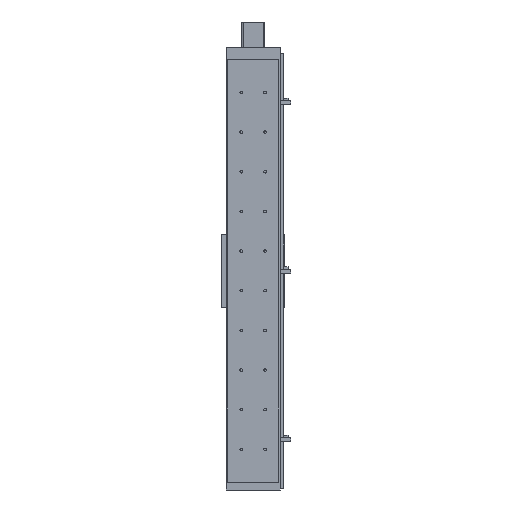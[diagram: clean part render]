
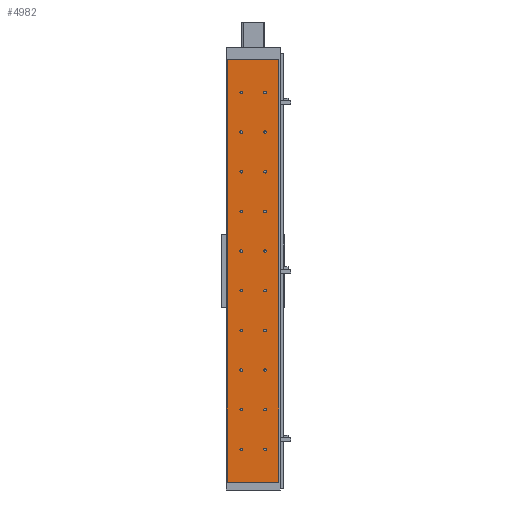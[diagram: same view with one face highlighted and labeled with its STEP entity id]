
A CAD part, front view. The second image highlights one B-rep face of the part: STEP entity #4982.
In plain terms, the highlighted planar face has unit normal (0, -1, 0).
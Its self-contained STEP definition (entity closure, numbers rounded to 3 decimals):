
#2214=CARTESIAN_POINT('',(26.75,0.0,82.5));
#2215=VERTEX_POINT('',#2214);
#2216=CARTESIAN_POINT('',(30.,0.0,82.5));
#2217=DIRECTION('',(0.0,1.0,0.0));
#2218=DIRECTION('',(1.0,0.0,0.0));
#2219=AXIS2_PLACEMENT_3D('',#2216,#2217,#2218);
#2220=CIRCLE('',#2219,3.25);
#2221=EDGE_CURVE('',#2215,#2215,#2220,.T.);
#2255=CARTESIAN_POINT('',(-33.25,0.0,82.5));
#2256=VERTEX_POINT('',#2255);
#2257=CARTESIAN_POINT('',(-30.,0.0,82.5));
#2258=DIRECTION('',(0.0,1.0,0.0));
#2259=DIRECTION('',(1.0,0.0,0.0));
#2260=AXIS2_PLACEMENT_3D('',#2257,#2258,#2259);
#2261=CIRCLE('',#2260,3.25);
#2262=EDGE_CURVE('',#2256,#2256,#2261,.T.);
#2434=CARTESIAN_POINT('',(26.75,0.0,182.5));
#2435=VERTEX_POINT('',#2434);
#2436=CARTESIAN_POINT('',(30.,0.0,182.5));
#2437=DIRECTION('',(0.0,1.0,0.0));
#2438=DIRECTION('',(1.0,0.0,0.0));
#2439=AXIS2_PLACEMENT_3D('',#2436,#2437,#2438);
#2440=CIRCLE('',#2439,3.25);
#2441=EDGE_CURVE('',#2435,#2435,#2440,.T.);
#2475=CARTESIAN_POINT('',(-33.25,0.0,182.5));
#2476=VERTEX_POINT('',#2475);
#2477=CARTESIAN_POINT('',(-30.,0.0,182.5));
#2478=DIRECTION('',(0.0,1.0,0.0));
#2479=DIRECTION('',(1.0,0.0,0.0));
#2480=AXIS2_PLACEMENT_3D('',#2477,#2478,#2479);
#2481=CIRCLE('',#2480,3.25);
#2482=EDGE_CURVE('',#2476,#2476,#2481,.T.);
#2654=CARTESIAN_POINT('',(26.75,0.0,282.5));
#2655=VERTEX_POINT('',#2654);
#2656=CARTESIAN_POINT('',(30.,0.0,282.5));
#2657=DIRECTION('',(0.0,1.0,0.0));
#2658=DIRECTION('',(1.0,0.0,0.0));
#2659=AXIS2_PLACEMENT_3D('',#2656,#2657,#2658);
#2660=CIRCLE('',#2659,3.25);
#2661=EDGE_CURVE('',#2655,#2655,#2660,.T.);
#2695=CARTESIAN_POINT('',(-33.25,0.0,282.5));
#2696=VERTEX_POINT('',#2695);
#2697=CARTESIAN_POINT('',(-30.,0.0,282.5));
#2698=DIRECTION('',(0.0,1.0,0.0));
#2699=DIRECTION('',(1.0,0.0,0.0));
#2700=AXIS2_PLACEMENT_3D('',#2697,#2698,#2699);
#2701=CIRCLE('',#2700,3.25);
#2702=EDGE_CURVE('',#2696,#2696,#2701,.T.);
#2874=CARTESIAN_POINT('',(26.75,0.0,382.5));
#2875=VERTEX_POINT('',#2874);
#2876=CARTESIAN_POINT('',(30.,0.0,382.5));
#2877=DIRECTION('',(0.0,1.0,0.0));
#2878=DIRECTION('',(1.0,0.0,0.0));
#2879=AXIS2_PLACEMENT_3D('',#2876,#2877,#2878);
#2880=CIRCLE('',#2879,3.25);
#2881=EDGE_CURVE('',#2875,#2875,#2880,.T.);
#2915=CARTESIAN_POINT('',(-33.25,0.0,382.5));
#2916=VERTEX_POINT('',#2915);
#2917=CARTESIAN_POINT('',(-30.,0.0,382.5));
#2918=DIRECTION('',(0.0,1.0,0.0));
#2919=DIRECTION('',(1.0,0.0,0.0));
#2920=AXIS2_PLACEMENT_3D('',#2917,#2918,#2919);
#2921=CIRCLE('',#2920,3.25);
#2922=EDGE_CURVE('',#2916,#2916,#2921,.T.);
#3025=CARTESIAN_POINT('',(-33.25,0.0,682.5));
#3026=VERTEX_POINT('',#3025);
#3027=CARTESIAN_POINT('',(-30.,0.0,682.5));
#3028=DIRECTION('',(0.0,1.0,0.0));
#3029=DIRECTION('',(1.0,0.0,0.0));
#3030=AXIS2_PLACEMENT_3D('',#3027,#3028,#3029);
#3031=CIRCLE('',#3030,3.25);
#3032=EDGE_CURVE('',#3026,#3026,#3031,.T.);
#3204=CARTESIAN_POINT('',(26.75,0.0,682.5));
#3205=VERTEX_POINT('',#3204);
#3206=CARTESIAN_POINT('',(30.,0.0,682.5));
#3207=DIRECTION('',(0.0,1.0,0.0));
#3208=DIRECTION('',(1.0,0.0,0.0));
#3209=AXIS2_PLACEMENT_3D('',#3206,#3207,#3208);
#3210=CIRCLE('',#3209,3.25);
#3211=EDGE_CURVE('',#3205,#3205,#3210,.T.);
#3245=CARTESIAN_POINT('',(-33.25,0.0,782.5));
#3246=VERTEX_POINT('',#3245);
#3247=CARTESIAN_POINT('',(-30.,0.0,782.5));
#3248=DIRECTION('',(0.0,1.0,0.0));
#3249=DIRECTION('',(1.0,0.0,0.0));
#3250=AXIS2_PLACEMENT_3D('',#3247,#3248,#3249);
#3251=CIRCLE('',#3250,3.25);
#3252=EDGE_CURVE('',#3246,#3246,#3251,.T.);
#3424=CARTESIAN_POINT('',(26.75,0.0,782.5));
#3425=VERTEX_POINT('',#3424);
#3426=CARTESIAN_POINT('',(30.,0.0,782.5));
#3427=DIRECTION('',(0.0,1.0,0.0));
#3428=DIRECTION('',(1.0,0.0,0.0));
#3429=AXIS2_PLACEMENT_3D('',#3426,#3427,#3428);
#3430=CIRCLE('',#3429,3.25);
#3431=EDGE_CURVE('',#3425,#3425,#3430,.T.);
#3465=CARTESIAN_POINT('',(-33.25,0.0,882.5));
#3466=VERTEX_POINT('',#3465);
#3467=CARTESIAN_POINT('',(-30.,0.0,882.5));
#3468=DIRECTION('',(0.0,1.0,0.0));
#3469=DIRECTION('',(1.0,0.0,0.0));
#3470=AXIS2_PLACEMENT_3D('',#3467,#3468,#3469);
#3471=CIRCLE('',#3470,3.25);
#3472=EDGE_CURVE('',#3466,#3466,#3471,.T.);
#3644=CARTESIAN_POINT('',(26.75,0.0,882.5));
#3645=VERTEX_POINT('',#3644);
#3646=CARTESIAN_POINT('',(30.,0.0,882.5));
#3647=DIRECTION('',(0.0,1.0,0.0));
#3648=DIRECTION('',(1.0,0.0,0.0));
#3649=AXIS2_PLACEMENT_3D('',#3646,#3647,#3648);
#3650=CIRCLE('',#3649,3.25);
#3651=EDGE_CURVE('',#3645,#3645,#3650,.T.);
#3685=CARTESIAN_POINT('',(-33.25,0.0,982.5));
#3686=VERTEX_POINT('',#3685);
#3687=CARTESIAN_POINT('',(-30.,0.0,982.5));
#3688=DIRECTION('',(0.0,1.0,0.0));
#3689=DIRECTION('',(1.0,0.0,0.0));
#3690=AXIS2_PLACEMENT_3D('',#3687,#3688,#3689);
#3691=CIRCLE('',#3690,3.25);
#3692=EDGE_CURVE('',#3686,#3686,#3691,.T.);
#3864=CARTESIAN_POINT('',(26.75,0.0,982.5));
#3865=VERTEX_POINT('',#3864);
#3866=CARTESIAN_POINT('',(30.,0.0,982.5));
#3867=DIRECTION('',(0.0,1.0,0.0));
#3868=DIRECTION('',(1.0,0.0,0.0));
#3869=AXIS2_PLACEMENT_3D('',#3866,#3867,#3868);
#3870=CIRCLE('',#3869,3.25);
#3871=EDGE_CURVE('',#3865,#3865,#3870,.T.);
#3905=CARTESIAN_POINT('',(-33.25,0.0,482.5));
#3906=VERTEX_POINT('',#3905);
#3907=CARTESIAN_POINT('',(-30.,0.0,482.5));
#3908=DIRECTION('',(0.0,1.0,0.0));
#3909=DIRECTION('',(1.0,0.0,0.0));
#3910=AXIS2_PLACEMENT_3D('',#3907,#3908,#3909);
#3911=CIRCLE('',#3910,3.25);
#3912=EDGE_CURVE('',#3906,#3906,#3911,.T.);
#4084=CARTESIAN_POINT('',(26.75,0.0,482.5));
#4085=VERTEX_POINT('',#4084);
#4086=CARTESIAN_POINT('',(30.,0.0,482.5));
#4087=DIRECTION('',(0.0,1.0,0.0));
#4088=DIRECTION('',(1.0,0.0,0.0));
#4089=AXIS2_PLACEMENT_3D('',#4086,#4087,#4088);
#4090=CIRCLE('',#4089,3.25);
#4091=EDGE_CURVE('',#4085,#4085,#4090,.T.);
#4194=CARTESIAN_POINT('',(26.75,0.0,582.5));
#4195=VERTEX_POINT('',#4194);
#4196=CARTESIAN_POINT('',(30.,0.0,582.5));
#4197=DIRECTION('',(0.0,1.0,0.0));
#4198=DIRECTION('',(1.0,0.0,0.0));
#4199=AXIS2_PLACEMENT_3D('',#4196,#4197,#4198);
#4200=CIRCLE('',#4199,3.25);
#4201=EDGE_CURVE('',#4195,#4195,#4200,.T.);
#4304=CARTESIAN_POINT('',(-33.25,0.0,582.5));
#4305=VERTEX_POINT('',#4304);
#4306=CARTESIAN_POINT('',(-30.,0.0,582.5));
#4307=DIRECTION('',(0.0,1.0,0.0));
#4308=DIRECTION('',(1.0,0.0,0.0));
#4309=AXIS2_PLACEMENT_3D('',#4306,#4307,#4308);
#4310=CIRCLE('',#4309,3.25);
#4311=EDGE_CURVE('',#4305,#4305,#4310,.T.);
#4638=CARTESIAN_POINT('',(65.0,0.0,0.0));
#4639=VERTEX_POINT('',#4638);
#4646=CARTESIAN_POINT('',(-65.0,0.0,0.0));
#4647=VERTEX_POINT('',#4646);
#4648=CARTESIAN_POINT('',(-65.0,0.0,0.0));
#4649=DIRECTION('',(1.0,0.0,0.0));
#4650=VECTOR('',#4649,130.0);
#4651=LINE('',#4648,#4650);
#4652=EDGE_CURVE('',#4647,#4639,#4651,.T.);
#4842=CARTESIAN_POINT('',(-65.0,0.0,1065.0));
#4843=VERTEX_POINT('',#4842);
#4850=CARTESIAN_POINT('',(65.0,0.0,1065.0));
#4851=VERTEX_POINT('',#4850);
#4852=CARTESIAN_POINT('',(65.0,0.0,1065.0));
#4853=DIRECTION('',(-1.0,0.0,0.0));
#4854=VECTOR('',#4853,130.0);
#4855=LINE('',#4852,#4854);
#4856=EDGE_CURVE('',#4851,#4843,#4855,.T.);
#4879=CARTESIAN_POINT('',(-65.0,0.0,0.0));
#4880=DIRECTION('',(0.0,0.0,1.0));
#4881=VECTOR('',#4880,1065.0);
#4882=LINE('',#4879,#4881);
#4883=EDGE_CURVE('',#4647,#4843,#4882,.T.);
#4901=CARTESIAN_POINT('',(65.0,0.0,0.0));
#4902=DIRECTION('',(0.0,0.0,1.0));
#4903=VECTOR('',#4902,1065.0);
#4904=LINE('',#4901,#4903);
#4905=EDGE_CURVE('',#4639,#4851,#4904,.T.);
#4911=CARTESIAN_POINT('',(65.0,0.0,0.0));
#4912=DIRECTION('',(0.0,-1.0,0.0));
#4913=DIRECTION('',(0.0,0.0,-1.0));
#4914=AXIS2_PLACEMENT_3D('',#4911,#4912,#4913);
#4915=PLANE('',#4914);
#4916=ORIENTED_EDGE('',*,*,#4856,.T.);
#4917=ORIENTED_EDGE('',*,*,#4883,.F.);
#4918=ORIENTED_EDGE('',*,*,#4652,.T.);
#4919=ORIENTED_EDGE('',*,*,#4905,.T.);
#4920=EDGE_LOOP('',(#4916,#4917,#4918,#4919));
#4921=FACE_OUTER_BOUND('',#4920,.T.);
#4922=ORIENTED_EDGE('',*,*,#2221,.T.);
#4923=EDGE_LOOP('',(#4922));
#4924=FACE_BOUND('',#4923,.T.);
#4925=ORIENTED_EDGE('',*,*,#2262,.T.);
#4926=EDGE_LOOP('',(#4925));
#4927=FACE_BOUND('',#4926,.T.);
#4928=ORIENTED_EDGE('',*,*,#2441,.T.);
#4929=EDGE_LOOP('',(#4928));
#4930=FACE_BOUND('',#4929,.T.);
#4931=ORIENTED_EDGE('',*,*,#2482,.T.);
#4932=EDGE_LOOP('',(#4931));
#4933=FACE_BOUND('',#4932,.T.);
#4934=ORIENTED_EDGE('',*,*,#2661,.T.);
#4935=EDGE_LOOP('',(#4934));
#4936=FACE_BOUND('',#4935,.T.);
#4937=ORIENTED_EDGE('',*,*,#2702,.T.);
#4938=EDGE_LOOP('',(#4937));
#4939=FACE_BOUND('',#4938,.T.);
#4940=ORIENTED_EDGE('',*,*,#2881,.T.);
#4941=EDGE_LOOP('',(#4940));
#4942=FACE_BOUND('',#4941,.T.);
#4943=ORIENTED_EDGE('',*,*,#2922,.T.);
#4944=EDGE_LOOP('',(#4943));
#4945=FACE_BOUND('',#4944,.T.);
#4946=ORIENTED_EDGE('',*,*,#3032,.T.);
#4947=EDGE_LOOP('',(#4946));
#4948=FACE_BOUND('',#4947,.T.);
#4949=ORIENTED_EDGE('',*,*,#3211,.T.);
#4950=EDGE_LOOP('',(#4949));
#4951=FACE_BOUND('',#4950,.T.);
#4952=ORIENTED_EDGE('',*,*,#3252,.T.);
#4953=EDGE_LOOP('',(#4952));
#4954=FACE_BOUND('',#4953,.T.);
#4955=ORIENTED_EDGE('',*,*,#3431,.T.);
#4956=EDGE_LOOP('',(#4955));
#4957=FACE_BOUND('',#4956,.T.);
#4958=ORIENTED_EDGE('',*,*,#3472,.T.);
#4959=EDGE_LOOP('',(#4958));
#4960=FACE_BOUND('',#4959,.T.);
#4961=ORIENTED_EDGE('',*,*,#3651,.T.);
#4962=EDGE_LOOP('',(#4961));
#4963=FACE_BOUND('',#4962,.T.);
#4964=ORIENTED_EDGE('',*,*,#3692,.T.);
#4965=EDGE_LOOP('',(#4964));
#4966=FACE_BOUND('',#4965,.T.);
#4967=ORIENTED_EDGE('',*,*,#3871,.T.);
#4968=EDGE_LOOP('',(#4967));
#4969=FACE_BOUND('',#4968,.T.);
#4970=ORIENTED_EDGE('',*,*,#3912,.T.);
#4971=EDGE_LOOP('',(#4970));
#4972=FACE_BOUND('',#4971,.T.);
#4973=ORIENTED_EDGE('',*,*,#4091,.T.);
#4974=EDGE_LOOP('',(#4973));
#4975=FACE_BOUND('',#4974,.T.);
#4976=ORIENTED_EDGE('',*,*,#4201,.T.);
#4977=EDGE_LOOP('',(#4976));
#4978=FACE_BOUND('',#4977,.T.);
#4979=ORIENTED_EDGE('',*,*,#4311,.T.);
#4980=EDGE_LOOP('',(#4979));
#4981=FACE_BOUND('',#4980,.T.);
#4982=ADVANCED_FACE('',(#4921,#4924,#4927,#4930,#4933,#4936,#4939,#4942,#4945,#4948,#4951,#4954,#4957,#4960,#4963,#4966,#4969,#4972,#4975,#4978,#4981),#4915,.T.);
